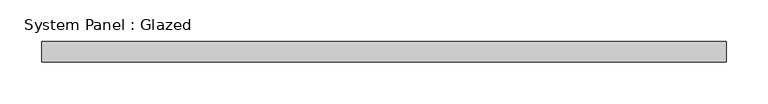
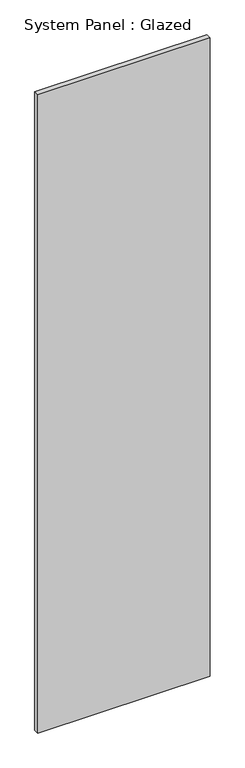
"""IFC4 building model written with IfcOpenShell, lengths in millimetres: plate geometry, System Panel : Glazed."""

from ifc_helpers import new_model, si_unit, origin, origin_with_axes, place, context, project, spatial, polyline, outline, extrude, source, transform, mapped, element, save


def system_panel_glazed_5c861fb7(model_context):
    return source(origin(), model_context, "Body", "SweptSolid", [
        extrude(outline(polyline([(412.5000002, 24.5), (-412.5000002, 24.5), (-412.5000002, 49.5), (412.5000002, 49.5), (412.5000002, 24.5)])), origin_with_axes(), (0.0, 0.0, 1.0), 3230.0),
    ])


if __name__ == "__main__":
    model = new_model("IFC4")
    model_context = context("Model", 3, world=origin())
    ifc_project = project(units=[si_unit("LENGTHUNIT", "METRE", prefix="MILLI")], contexts=[model_context])
    site = spatial("IfcSite", under=ifc_project)
    building = spatial("IfcBuilding", under=site)
    placement = place(None, origin())
    system_panel_glazed_shape = system_panel_glazed_5c861fb7(model_context)
    element("IfcPlate", 1, ObjectType="System Panel : Glazed", at=placement, inside=building, context=model_context, shape_type="MappedRepresentation", body=[
        mapped(system_panel_glazed_shape, transform((0.0, 0.0, 0.0), x_axis=(1.0, 0.0, 0.0), y_axis=(0.0, 1.0, 0.0), z_axis=(0.0, 0.0, 1.0))),
    ])
    save(model, "model.ifc")
